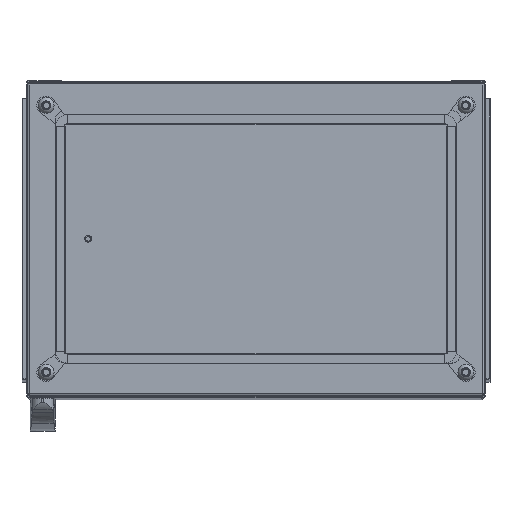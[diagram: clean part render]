
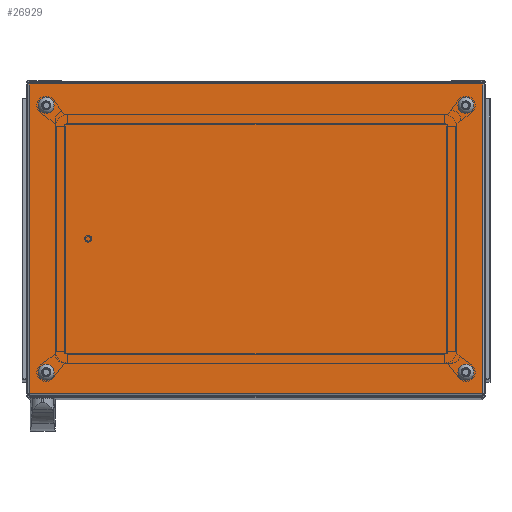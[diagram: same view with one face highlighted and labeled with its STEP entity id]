
A CAD part, top view. The second image highlights one B-rep face of the part: STEP entity #26929.
In plain terms, the highlighted planar face has unit normal (0, 0, 1).
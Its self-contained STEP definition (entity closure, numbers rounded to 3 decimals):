
#1327=CIRCLE('',#28924,6.);
#1328=CIRCLE('',#28925,6.);
#1329=CIRCLE('',#28926,6.);
#1330=CIRCLE('',#28927,6.);
#5083=ORIENTED_EDGE('',*,*,#11477,.F.);
#5084=ORIENTED_EDGE('',*,*,#11478,.F.);
#5085=ORIENTED_EDGE('',*,*,#11479,.F.);
#5086=ORIENTED_EDGE('',*,*,#11480,.F.);
#5087=ORIENTED_EDGE('',*,*,#11466,.T.);
#5088=ORIENTED_EDGE('',*,*,#11474,.T.);
#5089=ORIENTED_EDGE('',*,*,#11437,.F.);
#5090=ORIENTED_EDGE('',*,*,#11481,.F.);
#11437=EDGE_CURVE('',#14869,#14870,#17557,.T.);
#11466=EDGE_CURVE('',#14891,#14890,#17563,.T.);
#11474=EDGE_CURVE('',#14890,#14870,#17568,.T.);
#11477=EDGE_CURVE('',#14892,#14892,#1327,.T.);
#11478=EDGE_CURVE('',#14893,#14893,#1328,.T.);
#11479=EDGE_CURVE('',#14894,#14894,#1329,.T.);
#11480=EDGE_CURVE('',#14895,#14895,#1330,.T.);
#11481=EDGE_CURVE('',#14891,#14869,#17571,.T.);
#14869=VERTEX_POINT('',#42049);
#14870=VERTEX_POINT('',#42051);
#14890=VERTEX_POINT('',#42125);
#14891=VERTEX_POINT('',#42127);
#14892=VERTEX_POINT('',#42144);
#14893=VERTEX_POINT('',#42146);
#14894=VERTEX_POINT('',#42148);
#14895=VERTEX_POINT('',#42150);
#17557=LINE('',#42050,#19902);
#17563=LINE('',#42126,#19908);
#17568=LINE('',#42138,#19913);
#17571=LINE('',#42151,#19916);
#19902=VECTOR('',#33700,1000.);
#19908=VECTOR('',#33754,1000.);
#19913=VECTOR('',#33771,1000.);
#19916=VECTOR('',#33786,1000.);
#21945=EDGE_LOOP('',(#5083));
#21946=EDGE_LOOP('',(#5084));
#21947=EDGE_LOOP('',(#5085));
#21948=EDGE_LOOP('',(#5086));
#21949=EDGE_LOOP('',(#5087,#5088,#5089,#5090));
#24152=FACE_BOUND('',#21945,.T.);
#24153=FACE_BOUND('',#21946,.T.);
#24154=FACE_BOUND('',#21947,.T.);
#24155=FACE_BOUND('',#21948,.T.);
#24156=FACE_BOUND('',#21949,.T.);
#26016=PLANE('',#28923);
#26929=ADVANCED_FACE('',(#24152,#24153,#24154,#24155,#24156),#26016,.T.);
#28923=AXIS2_PLACEMENT_3D('',#42142,#33776,#33777);
#28924=AXIS2_PLACEMENT_3D('',#42143,#33778,#33779);
#28925=AXIS2_PLACEMENT_3D('',#42145,#33780,#33781);
#28926=AXIS2_PLACEMENT_3D('',#42147,#33782,#33783);
#28927=AXIS2_PLACEMENT_3D('',#42149,#33784,#33785);
#33700=DIRECTION('',(-1.,0.,0.));
#33754=DIRECTION('',(-1.,0.,0.));
#33771=DIRECTION('',(0.,-1.,0.));
#33776=DIRECTION('',(0.,0.,1.));
#33777=DIRECTION('',(1.,0.,0.));
#33778=DIRECTION('',(0.,0.,1.));
#33779=DIRECTION('',(1.,0.,0.));
#33780=DIRECTION('',(0.,0.,1.));
#33781=DIRECTION('',(1.,0.,0.));
#33782=DIRECTION('',(0.,0.,1.));
#33783=DIRECTION('',(1.,0.,0.));
#33784=DIRECTION('',(0.,0.,1.));
#33785=DIRECTION('',(1.,0.,0.));
#33786=DIRECTION('',(0.,-1.,0.));
#42049=CARTESIAN_POINT('',(296.5,-202.5,20.));
#42050=CARTESIAN_POINT('',(300.,-202.5,20.));
#42051=CARTESIAN_POINT('',(-296.5,-202.5,20.));
#42125=CARTESIAN_POINT('',(-296.5,202.5,20.));
#42126=CARTESIAN_POINT('',(300.,202.5,20.));
#42127=CARTESIAN_POINT('',(296.5,202.5,20.));
#42138=CARTESIAN_POINT('',(-296.5,205.5,20.));
#42142=CARTESIAN_POINT('',(-296.5,-202.5,20.));
#42143=CARTESIAN_POINT('',(274.5,-174.5,20.));
#42144=CARTESIAN_POINT('',(280.5,-174.5,20.));
#42145=CARTESIAN_POINT('',(-274.5,174.5,20.));
#42146=CARTESIAN_POINT('',(-268.5,174.5,20.));
#42147=CARTESIAN_POINT('',(274.5,174.5,20.));
#42148=CARTESIAN_POINT('',(280.5,174.5,20.));
#42149=CARTESIAN_POINT('',(-274.5,-174.5,20.));
#42150=CARTESIAN_POINT('',(-268.5,-174.5,20.));
#42151=CARTESIAN_POINT('',(296.5,205.5,20.));
